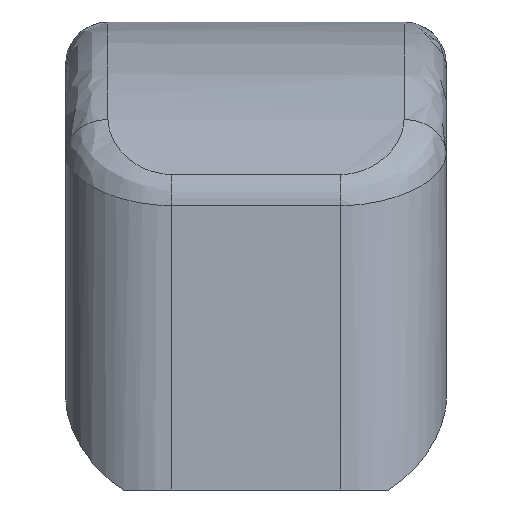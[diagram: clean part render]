
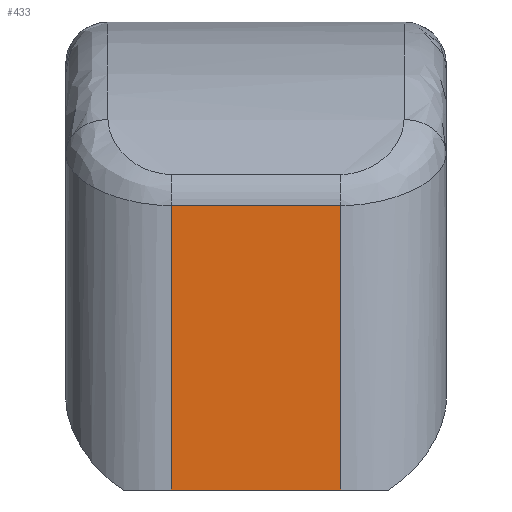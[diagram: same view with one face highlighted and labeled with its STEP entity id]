
A CAD part, left-side view. The second image highlights one B-rep face of the part: STEP entity #433.
In plain terms, the highlighted planar face has unit normal (-1, 0, 0).
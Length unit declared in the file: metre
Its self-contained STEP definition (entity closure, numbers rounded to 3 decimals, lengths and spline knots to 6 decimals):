
#58=ORIENTED_EDGE('',*,*,#188,.T.);
#59=ORIENTED_EDGE('',*,*,#189,.F.);
#60=ORIENTED_EDGE('',*,*,#190,.F.);
#61=ORIENTED_EDGE('',*,*,#191,.T.);
#188=EDGE_CURVE('',#253,#254,#293,.T.);
#189=EDGE_CURVE('',#255,#254,#294,.T.);
#190=EDGE_CURVE('',#256,#255,#295,.T.);
#191=EDGE_CURVE('',#256,#253,#296,.T.);
#253=VERTEX_POINT('',#643);
#254=VERTEX_POINT('',#644);
#255=VERTEX_POINT('',#646);
#256=VERTEX_POINT('',#648);
#293=LINE('',#642,#328);
#294=LINE('',#645,#329);
#295=LINE('',#647,#330);
#296=LINE('',#649,#331);
#328=VECTOR('',#521,1.);
#329=VECTOR('',#522,1.);
#330=VECTOR('',#523,1.);
#331=VECTOR('',#524,1.);
#363=EDGE_LOOP('',(#58,#59,#60,#61));
#392=FACE_BOUND('',#363,.T.);
#421=PLANE('',#474);
#433=ADVANCED_FACE('',(#392),#421,.F.);
#474=AXIS2_PLACEMENT_3D('',#641,#519,#520);
#519=DIRECTION('',(1.,0.,0.));
#520=DIRECTION('',(0.,0.,-1.));
#521=DIRECTION('',(0.,1.,0.));
#522=DIRECTION('',(0.,0.,1.));
#523=DIRECTION('',(0.,1.,0.));
#524=DIRECTION('',(0.,0.,1.));
#641=CARTESIAN_POINT('',(-0.012,0.,0.001));
#642=CARTESIAN_POINT('',(-0.012,0.002,0.001659));
#643=CARTESIAN_POINT('',(-0.012,-0.002,0.001659));
#644=CARTESIAN_POINT('',(-0.012,0.002,0.001659));
#645=CARTESIAN_POINT('',(-0.012,0.002,0.001));
#646=CARTESIAN_POINT('',(-0.012,0.002,-0.005067));
#647=CARTESIAN_POINT('',(-0.012,0.006,-0.005067));
#648=CARTESIAN_POINT('',(-0.012,-0.002,-0.005067));
#649=CARTESIAN_POINT('',(-0.012,-0.002,0.001));
